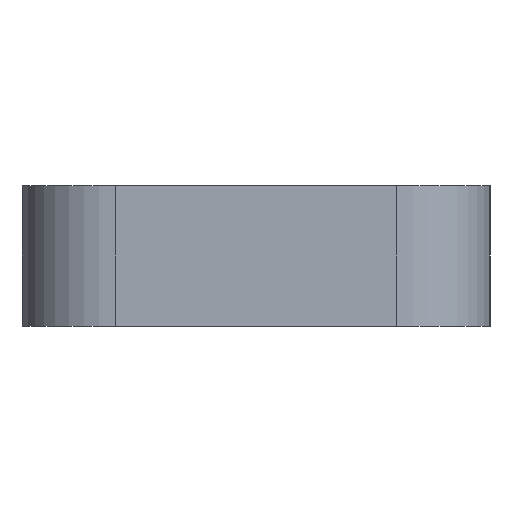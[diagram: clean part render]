
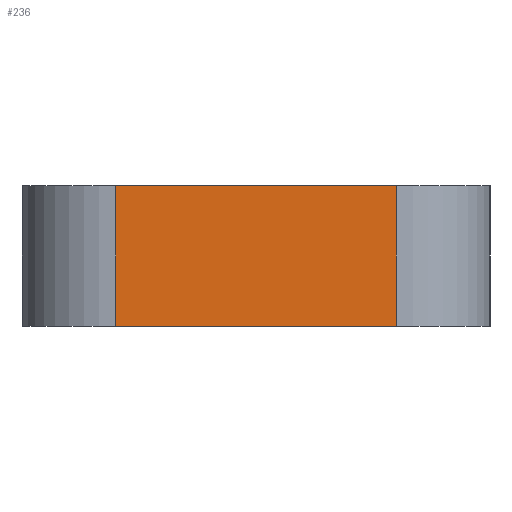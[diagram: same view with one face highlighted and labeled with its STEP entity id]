
A CAD part, left-side view. The second image highlights one B-rep face of the part: STEP entity #236.
In plain terms, the highlighted planar face has unit normal (-1, 0, 0).
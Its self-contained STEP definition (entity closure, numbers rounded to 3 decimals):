
#177=CARTESIAN_POINT('Vertex',(0.,-8.,3.)) ;
#180=CARTESIAN_POINT('Line Origine',(0.,-8.,1.5)) ;
#184=CARTESIAN_POINT('Vertex',(0.,-8.,0.)) ;
#206=CARTESIAN_POINT('Axis2P3D Location',(0.,0.,0.)) ;
#211=CARTESIAN_POINT('Line Origine',(0.,-5.,0.)) ;
#215=CARTESIAN_POINT('Vertex',(0.,-2.,0.)) ;
#218=CARTESIAN_POINT('Line Origine',(0.,-5.,3.)) ;
#222=CARTESIAN_POINT('Vertex',(0.,-2.,3.)) ;
#225=CARTESIAN_POINT('Line Origine',(0.,-2.,1.5)) ;
#181=DIRECTION('Vector Direction',(0.,0.,1.)) ;
#207=DIRECTION('Axis2P3D Direction',(-1.,0.,0.)) ;
#208=DIRECTION('Axis2P3D XDirection',(0.,-1.,0.)) ;
#212=DIRECTION('Vector Direction',(0.,-1.,0.)) ;
#219=DIRECTION('Vector Direction',(0.,-1.,0.)) ;
#226=DIRECTION('Vector Direction',(0.,0.,1.)) ;
#209=AXIS2_PLACEMENT_3D('Plane Axis2P3D',#206,#207,#208) ;
#231=ORIENTED_EDGE('',*,*,#217,.T.) ;
#232=ORIENTED_EDGE('',*,*,#186,.T.) ;
#233=ORIENTED_EDGE('',*,*,#224,.F.) ;
#234=ORIENTED_EDGE('',*,*,#229,.F.) ;
#182=VECTOR('Line Direction',#181,1.) ;
#213=VECTOR('Line Direction',#212,1.) ;
#220=VECTOR('Line Direction',#219,1.) ;
#227=VECTOR('Line Direction',#226,1.) ;
#236=ADVANCED_FACE('Barre Centre',(#235),#210,.T.) ;
#186=EDGE_CURVE('',#185,#178,#183,.T.) ;
#217=EDGE_CURVE('',#216,#185,#214,.T.) ;
#224=EDGE_CURVE('',#223,#178,#221,.T.) ;
#229=EDGE_CURVE('',#216,#223,#228,.T.) ;
#230=EDGE_LOOP('',(#231,#232,#233,#234)) ;
#235=FACE_OUTER_BOUND('',#230,.T.) ;
#183=LINE('Line',#180,#182) ;
#214=LINE('Line',#211,#213) ;
#221=LINE('Line',#218,#220) ;
#228=LINE('Line',#225,#227) ;
#210=PLANE('Plane',#209) ;
#178=VERTEX_POINT('',#177) ;
#185=VERTEX_POINT('',#184) ;
#216=VERTEX_POINT('',#215) ;
#223=VERTEX_POINT('',#222) ;
